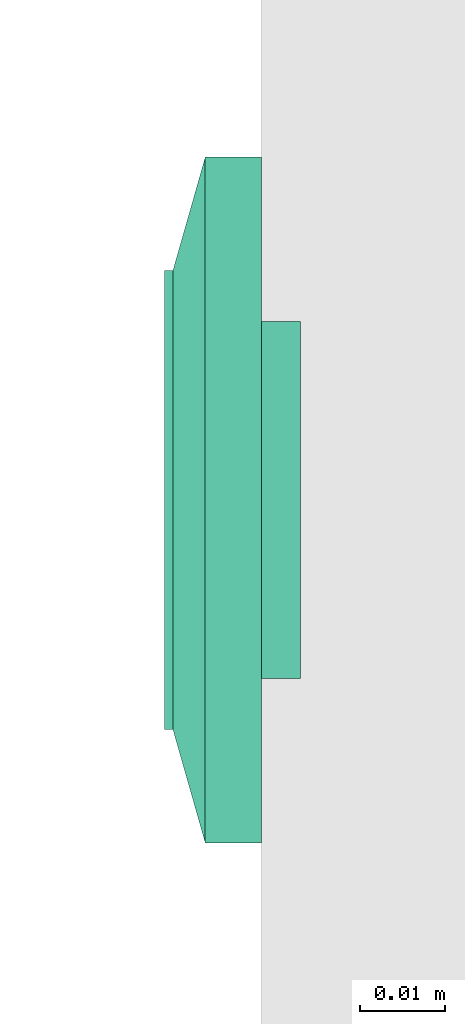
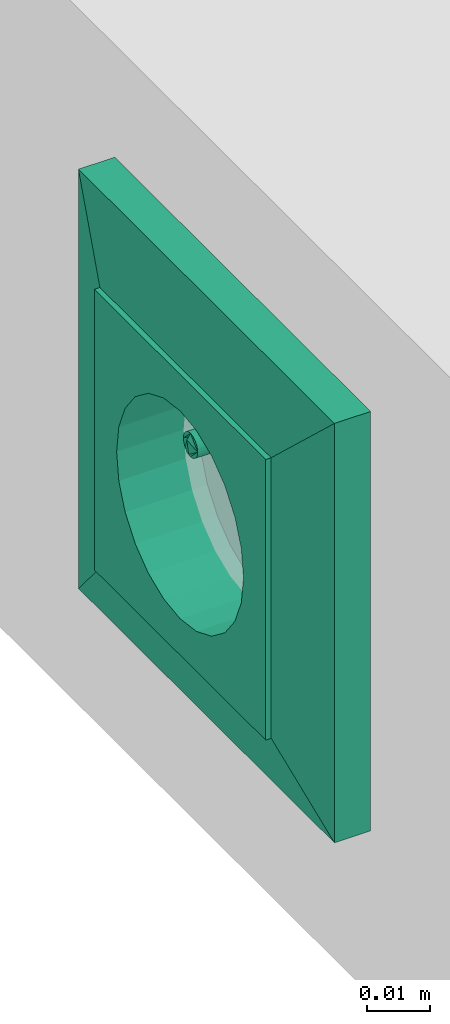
# One storey, part 58 of 166: 1 flow terminal.
"""IFC2X3 building model written with IfcOpenShell, lengths in metres."""

from ifc_helpers import new_model, entity, si_unit, converted_unit, derived_unit, direction, frame, origin, place, context, subcontext, project, spatial, face_set, surface_model, source, transform, mapped, type_object, type_shapes, element, save


model = new_model("IFC2X3")

# Units and contexts
model_context = context("Model", 3, precision=1e-05, world=origin(), true_north=direction((6.12303176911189e-17, 1.0)))
body_context = subcontext(model_context, "Body", "Model", "MODEL_VIEW")
ifc_project = project(units=[si_unit("LENGTHUNIT", "METRE"), si_unit("AREAUNIT", "SQUARE_METRE"), si_unit("VOLUMEUNIT", "CUBIC_METRE"), converted_unit("PLANEANGLEUNIT", "DEGREE", entity("IfcRatioMeasure", 0.0174532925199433), si_unit("PLANEANGLEUNIT", "RADIAN"), dimensions=[0, 0, 0, 0, 0, 0, 0]), si_unit("MASSUNIT", "GRAM", prefix="KILO"), derived_unit("MASSDENSITYUNIT", [(si_unit("MASSUNIT", "GRAM", prefix="KILO"), 1), (si_unit("LENGTHUNIT", "METRE"), -3)]), si_unit("TIMEUNIT", "SECOND"), si_unit("FREQUENCYUNIT", "HERTZ"), si_unit("THERMODYNAMICTEMPERATUREUNIT", "DEGREE_CELSIUS"), derived_unit("THERMALTRANSMITTANCEUNIT", [(si_unit("MASSUNIT", "GRAM", prefix="KILO"), 1), (si_unit("THERMODYNAMICTEMPERATUREUNIT", "KELVIN"), -1), (si_unit("TIMEUNIT", "SECOND"), -3)]), derived_unit("VOLUMETRICFLOWRATEUNIT", [(si_unit("LENGTHUNIT", "METRE"), 3), (si_unit("TIMEUNIT", "SECOND"), -1)]), si_unit("ELECTRICCURRENTUNIT", "AMPERE"), si_unit("ELECTRICVOLTAGEUNIT", "VOLT"), si_unit("POWERUNIT", "WATT"), si_unit("FORCEUNIT", "NEWTON"), si_unit("ILLUMINANCEUNIT", "LUX"), si_unit("LUMINOUSFLUXUNIT", "LUMEN"), si_unit("LUMINOUSINTENSITYUNIT", "CANDELA"), derived_unit("USERDEFINED", [(si_unit("MASSUNIT", "GRAM", prefix="KILO"), -1), (si_unit("LENGTHUNIT", "METRE"), -2), (si_unit("TIMEUNIT", "SECOND"), 3), (si_unit("LUMINOUSFLUXUNIT", "LUMEN"), 1)]), derived_unit("LINEARVELOCITYUNIT", [(si_unit("LENGTHUNIT", "METRE"), 1), (si_unit("TIMEUNIT", "SECOND"), -1)]), si_unit("PRESSUREUNIT", "PASCAL"), derived_unit("USERDEFINED", [(si_unit("LENGTHUNIT", "METRE"), -2), (si_unit("MASSUNIT", "GRAM", prefix="KILO"), 1), (si_unit("TIMEUNIT", "SECOND"), -2)])], contexts=[model_context])

# Site, building, storey
site_placement = place(None, origin())
site = spatial("IfcSite", under=ifc_project, at=site_placement, Name="Default", CompositionType="ELEMENT")
building_placement = place(site_placement, origin())
building = spatial("IfcBuilding", under=site, at=building_placement, CompositionType="ELEMENT")
storey_placement = place(building_placement, frame((0.0, 0.0, 4.27)))
storey = spatial("IfcBuildingStorey", under=building, at=storey_placement, Name="01", CompositionType="ELEMENT", Elevation=4.27)

# Flow terminal
light_fixture_type = type_object("IfcLightFixtureType", Name="PC IP20", PredefinedType="NOTDEFINED")
shared_shape = source(origin(), body_context, "Body", "SurfaceModel", [
    surface_model("IfcFaceBasedSurfaceModel", [(-0.00225000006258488, 0.0127499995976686, 0.00949633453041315), (0.0, 0.0104999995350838, 0.00949633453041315), (0.0, 0.0115376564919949, 0.0101656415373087), (0.0, 0.0139623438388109, 0.0101656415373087), (0.0, 0.0144589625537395, 0.00984531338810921), (0.0, 0.0121178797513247, 0.0102778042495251), (0.0, 0.0133821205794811, 0.0102778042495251), (0.0, 0.0127499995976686, 0.010399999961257), (0.0, 0.0149999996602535, 0.00949633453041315), (0.00225000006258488, 0.0127499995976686, 0.00949633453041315), (0.0, 0.0110410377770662, 0.00984531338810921), (0.0, 0.0127499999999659, 0.00949633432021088), (0.00225000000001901, 0.0127499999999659, 0.00949633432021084), (0.00217333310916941, 0.0121676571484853, 0.00949633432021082), (0.00194855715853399, 0.0116249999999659, 0.00949633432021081), (0.00159099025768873, 0.0111590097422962, 0.00949633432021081), (0.001125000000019, 0.010801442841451, 0.00949633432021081), (0.00058234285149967, 0.0105766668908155, 0.00949633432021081), (0.0, 0.0104999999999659, 0.00949633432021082), (-0.000582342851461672, 0.0105766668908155, 0.00949633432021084), (-0.001124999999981, 0.010801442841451, 0.00949633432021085), (-0.00159099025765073, 0.0111590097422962, 0.00949633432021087), (-0.00194855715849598, 0.011624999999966, 0.00949633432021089), (-0.0021733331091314, 0.0121676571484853, 0.00949633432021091), (-0.00224999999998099, 0.012749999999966, 0.00949633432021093), (-0.00217333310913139, 0.0133323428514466, 0.00949633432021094), (-0.00194855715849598, 0.013874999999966, 0.00949633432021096), (-0.00159099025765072, 0.0143409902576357, 0.00949633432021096), (-0.00112499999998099, 0.0146985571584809, 0.00949633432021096), (-0.00058234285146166, 0.0149233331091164, 0.00949633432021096), (0.0, 0.0149999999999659, 0.00949633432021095), (0.000582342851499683, 0.0149233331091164, 0.00949633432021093), (0.00112500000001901, 0.0146985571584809, 0.00949633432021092), (0.00159099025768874, 0.0143409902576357, 0.00949633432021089), (0.001948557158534, 0.0138749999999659, 0.00949633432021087), (0.00217333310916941, 0.0133323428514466, 0.00949633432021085), (0.00225000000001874, 0.0127499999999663, -0.00360000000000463), (0.00217333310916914, 0.0121676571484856, -0.00360000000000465), (0.00194855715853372, 0.0116249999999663, -0.00360000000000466), (0.00159099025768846, 0.0111590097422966, -0.00360000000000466), (0.00112500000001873, 0.0108014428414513, -0.00360000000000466), (0.000582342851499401, 0.0105766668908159, -0.00360000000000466), (0.0, 0.0104999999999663, -0.00360000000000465), (-0.000582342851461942, 0.0105766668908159, -0.00360000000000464), (-0.00112499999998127, 0.0108014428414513, -0.00360000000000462), (-0.001590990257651, 0.0111590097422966, -0.0036000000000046), (-0.00194855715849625, 0.0116249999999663, -0.00360000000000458), (-0.00217333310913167, 0.0121676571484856, -0.00360000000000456), (-0.00224999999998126, 0.0127499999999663, -0.00360000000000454), (-0.00217333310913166, 0.013332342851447, -0.00360000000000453), (-0.00194855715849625, 0.0138749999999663, -0.00360000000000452), (-0.00159099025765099, 0.014340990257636, -0.00360000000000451), (-0.00112499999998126, 0.0146985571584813, -0.00360000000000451), (-0.000582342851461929, 0.0149233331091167, -0.00360000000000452), (0.0, 0.0149999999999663, -0.00360000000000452), (0.000582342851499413, 0.0149233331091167, -0.00360000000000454), (0.00112500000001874, 0.0146985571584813, -0.00360000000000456), (0.00159099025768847, 0.014340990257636, -0.00360000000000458), (0.00194855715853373, 0.0138749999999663, -0.0036000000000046), (0.00217333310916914, 0.013332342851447, -0.00360000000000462), (0.0270000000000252, 0.026999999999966, 0.0113999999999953), (-0.0269999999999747, 0.026999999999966, 0.0113999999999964), (-0.0269999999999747, -0.0270000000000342, 0.0113999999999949), (0.0270000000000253, -0.0270000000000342, 0.0113999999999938), (-0.0199999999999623, 0.0, 0.0113999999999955), (-0.0193185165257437, -0.00517638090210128, 0.0113999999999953), (-0.0173205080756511, -0.0100000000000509, 0.0113999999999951), (-0.0141421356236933, -0.0141421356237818, 0.011399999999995), (-0.00999999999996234, -0.0173205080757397, 0.0113999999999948), (-0.00517638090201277, -0.0193185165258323, 0.0113999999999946), (0.0, -0.0200000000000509, 0.0113999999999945), (0.00517638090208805, -0.0193185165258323, 0.0113999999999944), (0.0100000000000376, -0.0173205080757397, 0.0113999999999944), (0.0141421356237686, -0.0141421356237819, 0.0113999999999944), (0.0173205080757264, -0.010000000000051, 0.0113999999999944), (0.0193185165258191, -0.00517638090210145, 0.0113999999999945), (0.0200000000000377, 0.0, 0.0113999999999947), (0.0193185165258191, 0.00517638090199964, 0.0113999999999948), (0.0173205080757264, 0.0099999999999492, 0.011399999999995), (0.0141421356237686, 0.0141421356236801, 0.0113999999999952), (0.0100000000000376, 0.0173205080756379, 0.0113999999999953), (0.00517638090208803, 0.0193185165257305, 0.0113999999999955), (0.0, 0.0199999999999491, 0.0113999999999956), (-0.00517638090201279, 0.0193185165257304, 0.0113999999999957), (-0.00999999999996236, 0.0173205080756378, 0.0113999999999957), (-0.0141421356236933, 0.01414213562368, 0.0113999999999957), (-0.0173205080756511, 0.00999999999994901, 0.0113999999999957), (-0.0193185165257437, 0.00517638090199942, 0.0113999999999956), (0.0270000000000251, 0.0269999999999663, 0.00199999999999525), (0.0270000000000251, -0.0270000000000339, 0.00199999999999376), (-0.0269999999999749, -0.0270000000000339, 0.00199999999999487), (-0.0269999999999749, 0.0269999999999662, 0.00199999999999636), (0.0210000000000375, 0.0, 0.00199999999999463), (0.0202844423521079, -0.00543519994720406, 0.00199999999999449), (0.0181865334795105, -0.0105000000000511, 0.0019999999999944), (0.0148492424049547, -0.0148492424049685, 0.00199999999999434), (0.0105000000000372, -0.0181865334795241, 0.00199999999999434), (0.0054351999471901, -0.0202844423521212, 0.00199999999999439), (0.0, -0.0210000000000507, 0.00199999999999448), (-0.00543519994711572, -0.020284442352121, 0.00199999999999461), (-0.0104999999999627, -0.0181865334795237, 0.00199999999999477), (-0.0148492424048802, -0.014849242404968, 0.00199999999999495), (-0.0181865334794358, -0.0105000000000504, 0.00199999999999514), (-0.020284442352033, -0.00543519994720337, 0.00199999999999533), (-0.0209999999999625, 0.0, 0.00199999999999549), (-0.0202844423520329, 0.0054351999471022, 0.00199999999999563), (-0.0181865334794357, 0.0104999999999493, 0.00199999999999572), (-0.01484924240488, 0.0148492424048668, 0.00199999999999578), (-0.0104999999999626, 0.0181865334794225, 0.00199999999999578), (-0.00543519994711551, 0.0202844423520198, 0.00199999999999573), (0.0, 0.0209999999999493, 0.00199999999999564), (0.00543519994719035, 0.0202844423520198, 0.00199999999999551), (0.0105000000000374, 0.0181865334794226, 0.00199999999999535), (0.0148492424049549, 0.0148492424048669, 0.00199999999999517), (0.0181865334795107, 0.0104999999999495, 0.00199999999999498), (0.0202844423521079, 0.00543519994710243, 0.00199999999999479), (0.0200000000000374, 0.0, -0.00360000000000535), (0.0193185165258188, -0.00517638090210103, -0.00360000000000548), (0.0173205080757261, -0.0100000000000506, -0.00360000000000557), (0.0141421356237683, -0.0141421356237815, -0.00360000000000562), (0.0100000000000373, -0.0173205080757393, -0.00360000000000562), (0.00517638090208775, -0.0193185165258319, -0.00360000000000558), (0.0, -0.0200000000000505, -0.00360000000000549), (-0.00517638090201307, -0.0193185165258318, -0.00360000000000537), (-0.00999999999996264, -0.0173205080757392, -0.00360000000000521), (-0.0141421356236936, -0.0141421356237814, -0.00360000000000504), (-0.0173205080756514, -0.0100000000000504, -0.00360000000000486), (-0.019318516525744, -0.00517638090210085, -0.00360000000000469), (-0.0199999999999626, 0.0, -0.00360000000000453), (-0.0193185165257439, 0.00517638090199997, -0.0036000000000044), (-0.0173205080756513, 0.00999999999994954, -0.00360000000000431), (-0.0141421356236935, 0.0141421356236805, -0.00360000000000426), (-0.00999999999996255, 0.0173205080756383, -0.00360000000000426), (-0.00517638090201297, 0.0193185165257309, -0.0036000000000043), (0.0, 0.0199999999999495, -0.00360000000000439), (0.00517638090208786, 0.0193185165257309, -0.00360000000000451), (0.0100000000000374, 0.0173205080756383, -0.00360000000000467), (0.0141421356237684, 0.0141421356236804, -0.00360000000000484), (0.0173205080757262, 0.0099999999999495, -0.00360000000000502), (0.0193185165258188, 0.00517638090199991, -0.00360000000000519), (-0.0123499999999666, 0.0, -0.00360000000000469), (-0.0122562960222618, -0.000711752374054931, -0.00360000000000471), (-0.0119815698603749, -0.00137500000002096, -0.00360000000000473), (-0.0115445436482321, -0.00194454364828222, -0.00360000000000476), (-0.0109749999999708, -0.00238156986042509, -0.00360000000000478), (-0.0103117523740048, -0.00265629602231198, -0.0036000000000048), (-0.00959999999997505, -0.00275000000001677, -0.00360000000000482), (-0.0088882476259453, -0.00265629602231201, -0.00360000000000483), (-0.00822499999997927, -0.00238156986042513, -0.00360000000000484), (-0.00765545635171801, -0.00194454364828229, -0.00360000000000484), (-0.00721843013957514, -0.00137500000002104, -0.00360000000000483), (-0.00694370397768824, -0.000711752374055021, -0.00360000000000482), (-0.00684999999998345, 0.0, -0.0036000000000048), (-0.00694370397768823, 0.000711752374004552, -0.00360000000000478), (-0.00721843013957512, 0.00137499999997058, -0.00360000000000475), (-0.00765545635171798, 0.00194454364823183, -0.00360000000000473), (-0.00822499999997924, 0.00238156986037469, -0.0036000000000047), (-0.00888824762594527, 0.00265629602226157, -0.00360000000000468), (-0.00959999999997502, 0.00274999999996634, -0.00360000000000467), (-0.0103117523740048, 0.00265629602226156, -0.00360000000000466), (-0.0109749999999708, 0.00238156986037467, -0.00360000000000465), (-0.011544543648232, 0.00194454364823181, -0.00360000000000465), (-0.0119815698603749, 0.00137499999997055, -0.00360000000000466), (-0.0122562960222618, 0.000711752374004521, -0.00360000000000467), (0.00685000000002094, 0.0, -0.00360000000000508), (0.0069437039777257, -0.00071175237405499, -0.0036000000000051), (0.00721843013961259, -0.00137500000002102, -0.00360000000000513), (0.00765545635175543, -0.00194454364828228, -0.00360000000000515), (0.00822500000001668, -0.00238156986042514, -0.00360000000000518), (0.00888824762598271, -0.00265629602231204, -0.0036000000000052), (0.00960000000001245, -0.00275000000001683, -0.00360000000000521), (0.0103117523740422, -0.00265629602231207, -0.00360000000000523), (0.0109750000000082, -0.00238156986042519, -0.00360000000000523), (0.0115445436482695, -0.00194454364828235, -0.00360000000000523), (0.0119815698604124, -0.0013750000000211, -0.00360000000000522), (0.0122562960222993, -0.00071175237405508, -0.00360000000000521), (0.012350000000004, 0.0, -0.00360000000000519), (0.0122562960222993, 0.000711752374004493, -0.00360000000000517), (0.0119815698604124, 0.00137499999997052, -0.00360000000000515), (0.0115445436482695, 0.00194454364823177, -0.00360000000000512), (0.0109750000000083, 0.00238156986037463, -0.0036000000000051), (0.0103117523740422, 0.00265629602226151, -0.00360000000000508), (0.00960000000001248, 0.00274999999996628, -0.00360000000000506), (0.00888824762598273, 0.0026562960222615, -0.00360000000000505), (0.0082250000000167, 0.00238156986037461, -0.00360000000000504), (0.00765545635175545, 0.00194454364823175, -0.00360000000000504), (0.0072184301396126, 0.00137499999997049, -0.00360000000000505), (0.00694370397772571, 0.000711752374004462, -0.00360000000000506), (0.0210000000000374, 0.0, -0.00460000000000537), (0.0202844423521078, -0.00543519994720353, -0.00460000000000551), (0.0181865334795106, -0.0105000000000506, -0.0046000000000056), (0.0148492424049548, -0.0148492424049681, -0.00460000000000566), (0.0105000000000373, -0.0181865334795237, -0.00460000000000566), (0.00543519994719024, -0.0202844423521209, -0.00460000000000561), (0.0, -0.0210000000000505, -0.00460000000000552), (-0.00543519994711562, -0.0202844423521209, -0.00460000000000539), (-0.0104999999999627, -0.0181865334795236, -0.00460000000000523), (-0.0148492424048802, -0.0148492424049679, -0.00460000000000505), (-0.0181865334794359, -0.0105000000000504, -0.00460000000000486), (-0.0202844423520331, -0.00543519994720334, -0.00460000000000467), (-0.0209999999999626, 0.0, -0.00460000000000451), (-0.020284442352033, 0.00543519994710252, -0.00460000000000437), (-0.0181865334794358, 0.0104999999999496, -0.00460000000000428), (-0.0148492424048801, 0.0148492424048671, -0.00460000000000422), (-0.0104999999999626, 0.0181865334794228, -0.00460000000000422), (-0.00543519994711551, 0.02028444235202, -0.00460000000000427), (0.0, 0.0209999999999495, -0.00460000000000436), (0.00543519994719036, 0.02028444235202, -0.00460000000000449), (0.0105000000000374, 0.0181865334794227, -0.00460000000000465), (0.0148492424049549, 0.014849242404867, -0.00460000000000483), (0.0181865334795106, 0.0104999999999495, -0.00460000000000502), (0.0202844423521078, 0.00543519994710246, -0.00460000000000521), (-0.00684999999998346, 0.0, -0.0046000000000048), (-0.00694370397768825, 0.000711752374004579, -0.00460000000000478), (-0.00721843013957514, 0.00137499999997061, -0.00460000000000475), (-0.007655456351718, 0.00194454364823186, -0.00460000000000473), (-0.00822499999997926, 0.00238156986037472, -0.0046000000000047), (-0.00888824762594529, 0.0026562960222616, -0.00460000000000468), (-0.00959999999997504, 0.00274999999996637, -0.00460000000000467), (-0.0103117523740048, 0.00265629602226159, -0.00460000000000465), (-0.0109749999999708, 0.0023815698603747, -0.00460000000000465), (-0.0115445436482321, 0.00194454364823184, -0.00460000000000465), (-0.0119815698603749, 0.00137499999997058, -0.00460000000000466), (-0.0122562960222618, 0.000711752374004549, -0.00460000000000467), (-0.0123499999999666, 0.0, -0.00460000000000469), (-0.0122562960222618, -0.000711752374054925, -0.00460000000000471), (-0.0119815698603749, -0.00137500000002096, -0.00460000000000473), (-0.0115445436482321, -0.00194454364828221, -0.00460000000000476), (-0.0109749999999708, -0.00238156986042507, -0.00460000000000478), (-0.0103117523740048, -0.00265629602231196, -0.0046000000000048), (-0.00959999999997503, -0.00275000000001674, -0.00460000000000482), (-0.00888824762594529, -0.00265629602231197, -0.00460000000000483), (-0.00822499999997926, -0.00238156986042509, -0.00460000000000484), (-0.007655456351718, -0.00194454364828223, -0.00460000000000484), (-0.00721843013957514, -0.00137500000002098, -0.00460000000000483), (-0.00694370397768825, -0.000711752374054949, -0.00460000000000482), (0.012350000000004, 0.0, -0.00460000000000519), (0.0122562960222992, 0.000711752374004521, -0.00460000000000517), (0.0119815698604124, 0.00137499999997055, -0.00460000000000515), (0.0115445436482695, 0.0019445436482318, -0.00460000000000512), (0.0109750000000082, 0.00238156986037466, -0.0046000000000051), (0.0103117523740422, 0.00265629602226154, -0.00460000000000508), (0.00960000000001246, 0.00274999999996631, -0.00460000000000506), (0.00888824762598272, 0.00265629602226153, -0.00460000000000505), (0.00822500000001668, 0.00238156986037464, -0.00460000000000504), (0.00765545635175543, 0.00194454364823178, -0.00460000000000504), (0.00721843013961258, 0.00137499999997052, -0.00460000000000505), (0.00694370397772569, 0.00071175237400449, -0.00460000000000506), (0.00685000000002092, 0.0, -0.00460000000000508), (0.00694370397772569, -0.000711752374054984, -0.0046000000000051), (0.00721843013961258, -0.00137500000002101, -0.00460000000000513), (0.00765545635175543, -0.00194454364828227, -0.00460000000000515), (0.00822500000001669, -0.00238156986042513, -0.00460000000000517), (0.00888824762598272, -0.00265629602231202, -0.0046000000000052), (0.00960000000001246, -0.0027500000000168, -0.00460000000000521), (0.0103117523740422, -0.00265629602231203, -0.00460000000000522), (0.0109750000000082, -0.00238156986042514, -0.00460000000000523), (0.0115445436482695, -0.00194454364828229, -0.00460000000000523), (0.0119815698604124, -0.00137500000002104, -0.00460000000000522), (0.0122562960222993, -0.000711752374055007, -0.00460000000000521), (0.040350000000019, 0.0403499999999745, 0.00659999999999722), (0.040350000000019, -0.0403500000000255, 0.00659999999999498), (-0.0403499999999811, -0.0403500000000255, 0.00659999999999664), (-0.0403499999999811, 0.0403499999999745, 0.00659999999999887), (0.027000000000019, 0.0269999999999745, 0.00659999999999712), (-0.0269999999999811, 0.0269999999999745, 0.00659999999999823), (-0.026999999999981, -0.0270000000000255, 0.00659999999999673), (0.027000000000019, -0.0270000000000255, 0.00659999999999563), (0.027000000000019, 0.0269999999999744, 0.0103999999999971), (-0.026999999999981, 0.0269999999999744, 0.0103999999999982), (-0.026999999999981, -0.0270000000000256, 0.0103999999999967), (0.027000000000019, -0.0270000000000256, 0.0103999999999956), (0.040350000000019, 0.0403499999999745, 0.00659999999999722), (0.040350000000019, -0.0403500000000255, 0.00659999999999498), (-0.0403499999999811, -0.0403500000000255, 0.00659999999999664), (-0.0403499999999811, 0.0403499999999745, 0.00659999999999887), (-0.0269999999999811, 0.0269999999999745, 0.00659999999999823), (-0.0269999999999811, -0.0270000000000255, 0.00659999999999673), (0.0270000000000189, -0.0270000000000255, 0.00659999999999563), (0.0270000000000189, 0.0269999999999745, 0.00659999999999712), (0.0403500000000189, 0.0403499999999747, 0.0), (0.0403500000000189, -0.0403500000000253, 0.0), (-0.0403499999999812, -0.0403500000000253, 0.0), (-0.0403499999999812, 0.0403499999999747, 0.0), (0.0270000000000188, 0.0269999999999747, 0.0), (-0.0269999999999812, 0.0269999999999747, 0.0), (-0.0269999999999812, -0.0270000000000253, 0.0), (0.0270000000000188, -0.0270000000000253, 0.0)], [face_set([[[0, 1, 2]], [[3, 4, 2, 5]], [[6, 3, 5, 7]], [[2, 4, 0]], [[4, 8, 0]], [[3, 9, 8]], [[1, 9, 10]], [[2, 3, 6, 7]], [[3, 10, 9]], [[2, 10, 3]], [[11, 1, 0, 8]], [[11, 8, 9, 1]]]), face_set([[[12, 13, 14, 15, 16, 17, 18, 19, 20, 21, 22, 23, 24, 25, 26, 27, 28, 29, 30, 31, 32, 33, 34, 35]], [[36, 37, 38, 39, 40, 41, 42, 43, 44, 45, 46, 47, 48, 49, 50, 51, 52, 53, 54, 55, 56, 57, 58, 59]], [[48, 47, 23, 24]], [[47, 46, 22, 23]], [[45, 44, 20, 21]], [[46, 45, 21, 22]], [[44, 43, 19, 20]], [[18, 19, 43, 42]], [[42, 41, 17, 18]], [[41, 40, 16, 17]], [[39, 38, 14, 15]], [[40, 39, 15, 16]], [[38, 37, 13, 14]], [[12, 13, 37, 36]], [[36, 59, 35, 12]], [[59, 58, 34, 35]], [[57, 56, 32, 33]], [[58, 57, 33, 34]], [[56, 55, 31, 32]], [[30, 31, 55, 54]], [[54, 53, 29, 30]], [[53, 52, 28, 29]], [[51, 50, 26, 27]], [[52, 51, 27, 28]], [[50, 49, 25, 26]], [[24, 25, 49, 48]]]), face_set([[[60, 61, 62, 63], [64, 65, 66, 67, 68, 69, 70, 71, 72, 73, 74, 75, 76, 77, 78, 79, 80, 81, 82, 83, 84, 85, 86, 87]], [[88, 89, 90, 91], [92, 93, 94, 95, 96, 97, 98, 99, 100, 101, 102, 103, 104, 105, 106, 107, 108, 109, 110, 111, 112, 113, 114, 115]], [[61, 60, 88, 91]], [[62, 61, 91, 90]], [[63, 62, 90, 89]], [[60, 63, 89, 88]], [[116, 117, 118, 119, 120, 121, 122, 123, 124, 125, 126, 127, 128, 129, 130, 131, 132, 133, 134, 135, 136, 137, 138, 139], [140, 141, 142, 143, 144, 145, 146, 147, 148, 149, 150, 151, 152, 153, 154, 155, 156, 157, 158, 159, 160, 161, 162, 163], [164, 165, 166, 167, 168, 169, 170, 171, 172, 173, 174, 175, 176, 177, 178, 179, 180, 181, 182, 183, 184, 185, 186, 187]], [[64, 128, 127, 65]], [[65, 127, 126, 66]], [[67, 125, 124, 68]], [[66, 126, 125, 67]], [[68, 124, 123, 69]], [[122, 70, 69, 123]], [[70, 122, 121, 71]], [[71, 121, 120, 72]], [[73, 119, 118, 74]], [[72, 120, 119, 73]], [[74, 118, 117, 75]], [[116, 76, 75, 117]], [[76, 116, 139, 77]], [[77, 139, 138, 78]], [[79, 137, 136, 80]], [[78, 138, 137, 79]], [[80, 136, 135, 81]], [[134, 82, 81, 135]], [[82, 134, 133, 83]], [[83, 133, 132, 84]], [[84, 132, 131, 85]], [[85, 131, 130, 86]], [[130, 129, 87, 86]], [[64, 87, 129, 128]], [[188, 189, 190, 191, 192, 193, 194, 195, 196, 197, 198, 199, 200, 201, 202, 203, 204, 205, 206, 207, 208, 209, 210, 211], [212, 213, 214, 215, 216, 217, 218, 219, 220, 221, 222, 223, 224, 225, 226, 227, 228, 229, 230, 231, 232, 233, 234, 235], [236, 237, 238, 239, 240, 241, 242, 243, 244, 245, 246, 247, 248, 249, 250, 251, 252, 253, 254, 255, 256, 257, 258, 259]], [[200, 199, 103, 104]], [[199, 198, 102, 103]], [[197, 196, 100, 101]], [[198, 197, 101, 102]], [[196, 195, 99, 100]], [[98, 99, 195, 194]], [[194, 193, 97, 98]], [[193, 192, 96, 97]], [[191, 190, 94, 95]], [[192, 191, 95, 96]], [[190, 189, 93, 94]], [[92, 93, 189, 188]], [[188, 211, 115, 92]], [[211, 210, 114, 115]], [[209, 208, 112, 113]], [[210, 209, 113, 114]], [[208, 207, 111, 112]], [[110, 111, 207, 206]], [[206, 205, 109, 110]], [[205, 204, 108, 109]], [[203, 202, 106, 107]], [[204, 203, 107, 108]], [[202, 201, 105, 106]], [[104, 105, 201, 200]], [[141, 225, 226, 142]], [[140, 224, 225, 141]], [[144, 228, 229, 145]], [[143, 227, 228, 144]], [[142, 226, 227, 143]], [[230, 146, 145, 229]], [[149, 233, 232, 148]], [[148, 232, 231, 147]], [[152, 212, 235, 151]], [[151, 235, 234, 150]], [[150, 234, 233, 149]], [[146, 230, 231, 147]], [[154, 214, 213, 153]], [[153, 213, 212, 152]], [[157, 217, 216, 156]], [[156, 216, 215, 155]], [[155, 215, 214, 154]], [[218, 158, 157, 217]], [[160, 220, 221, 161]], [[159, 219, 220, 160]], [[163, 223, 224, 140]], [[162, 222, 223, 163]], [[161, 221, 222, 162]], [[158, 218, 219, 159]], [[166, 250, 249, 165]], [[165, 249, 248, 164]], [[169, 253, 252, 168]], [[168, 252, 251, 167]], [[167, 251, 250, 166]], [[254, 170, 169, 253]], [[172, 256, 257, 173]], [[171, 255, 256, 172]], [[175, 259, 236, 176]], [[174, 258, 259, 175]], [[173, 257, 258, 174]], [[170, 254, 255, 171]], [[177, 237, 238, 178]], [[176, 236, 237, 177]], [[180, 240, 241, 181]], [[179, 239, 240, 180]], [[178, 238, 239, 179]], [[242, 182, 181, 241]], [[185, 245, 244, 184]], [[184, 244, 243, 183]], [[164, 248, 247, 187]], [[187, 247, 246, 186]], [[186, 246, 245, 185]], [[182, 242, 243, 183]]]), face_set([[[260, 261, 262, 263], [264, 265, 266, 267]], [[260, 268, 269, 263]], [[263, 269, 270, 262]], [[262, 270, 271, 261]], [[261, 271, 268, 260]], [[264, 265, 269, 268]], [[265, 266, 270, 269]], [[266, 267, 271, 270]], [[268, 271, 267, 264]]]), face_set([[[272, 273, 274, 275], [276, 277, 278, 279]], [[280, 281, 282, 283], [284, 285, 286, 287]], [[275, 272, 280, 283]], [[274, 275, 283, 282]], [[273, 274, 282, 281]], [[272, 273, 281, 280]], [[284, 285, 276, 279]], [[285, 286, 277, 276]], [[286, 287, 278, 277]], [[279, 278, 287, 284]]])]),
])
type_shapes(light_fixture_type, [shared_shape])
flow_terminal_placement = place(building_placement, frame((37.3667436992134, -190.449349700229, 4.70800000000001), z_axis=(-1.0, 0.0, 0.0), x_axis=(0.0, -1.0, 0.0)))
element("IfcFlowTerminal", 1, at=flow_terminal_placement, inside=storey, type_object=light_fixture_type, Name="INT Prise de courant:PC IP20", ObjectType="INT Prise de courant:PC IP20", context=body_context, shape_type="MappedRepresentation", body=[
    mapped(shared_shape, transform((0.0, 0.0, 0.0), scale=1.0)),
])

save(model, "model.ifc")
